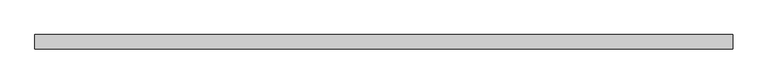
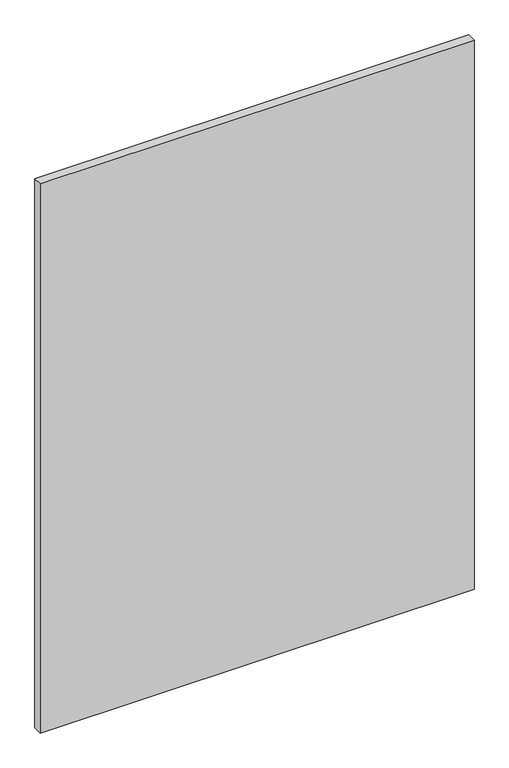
"""IFC4 building model written with IfcOpenShell, lengths in millimetres: plate geometry, Системная панель : Стекло(50мм)."""

from ifc_helpers import new_model, si_unit, origin, origin_with_axes, place, context, project, spatial, polyline, outline, extrude, source, transform, mapped, element, save


def plate_2ce54bea(model_context):
    return source(origin(), model_context, "Body", "SweptSolid", [
        extrude(outline(polyline([(1214.2214609, -25.0), (-1214.2214609, -25.0), (-1214.2214609, 25.0), (1214.2214609, 25.0), (1214.2214609, -25.0)])), origin_with_axes(), (0.0, 0.0, 1.0), 3250.0),
    ])


if __name__ == "__main__":
    model = new_model("IFC4")
    model_context = context("Model", 3, world=origin())
    ifc_project = project(units=[si_unit("LENGTHUNIT", "METRE", prefix="MILLI")], contexts=[model_context])
    site = spatial("IfcSite", under=ifc_project)
    building = spatial("IfcBuilding", under=site)
    placement = place(None, origin())
    plate_shape = plate_2ce54bea(model_context)
    element("IfcPlate", 1, ObjectType="Системная панель : Стекло(50мм)", at=placement, inside=building, context=model_context, shape_type="MappedRepresentation", body=[
        mapped(plate_shape, transform((0.0, 0.0, 0.0), x_axis=(1.0, 0.0, 0.0), y_axis=(0.0, 1.0, 0.0), z_axis=(0.0, 0.0, 1.0))),
    ])
    save(model, "model.ifc")
